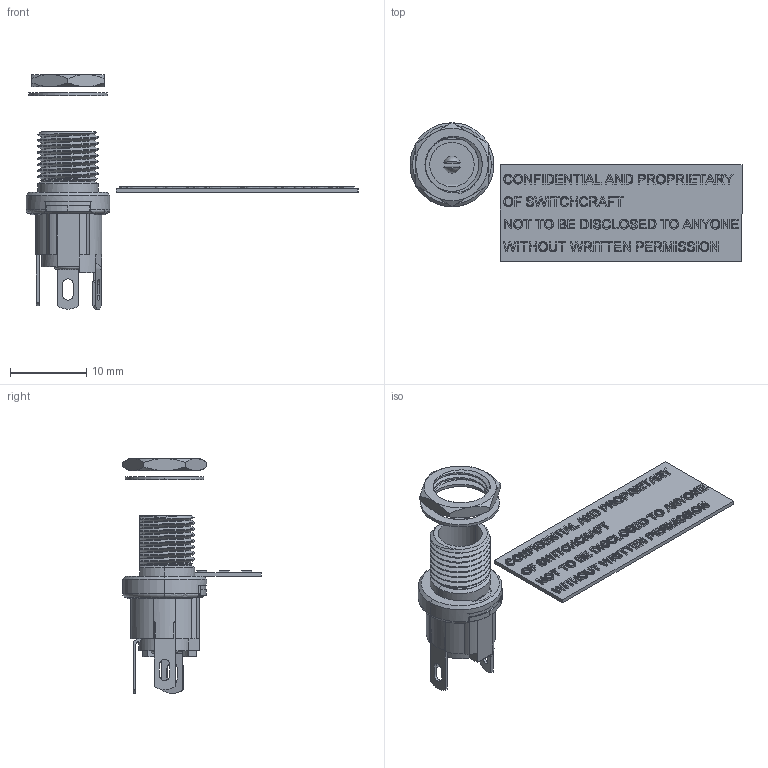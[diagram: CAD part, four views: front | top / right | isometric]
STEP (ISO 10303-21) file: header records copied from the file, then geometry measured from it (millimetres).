
FILE_DESCRIPTION (( 'STEP AP214' ), '1' );
FILE_NAME ('L722A.STEP', '2011-01-24T16:28:29', ( ' ' ), ( ' ' ), 'SwSTEP 2.0', 'SolidWorks 2008', '' );
FILE_SCHEMA (( 'AUTOMOTIVE_DESIGN' ));
Length unit declared in the file: inch
Products named in the file (1): L722A
Bounding box: 43.61 x 18.21 x 30.85 mm (x, y, z)
Volume: 1027.7 mm3; surface area: 2438.8 mm2
Topology: 4 solids, 5 shells, 1379 faces, 3706 edges, 2462 vertices
Faces by surface type: plane 843, bspline 349, cylinder 136, cone 44, torus 7
Entity records: 67551 total; most frequent: CARTESIAN_POINT 35575, ORIENTED_EDGE 7412, DIRECTION 5128, EDGE_CURVE 3706, VECTOR 2556, LINE 2556, VERTEX_POINT 2462, EDGE_LOOP 1514
